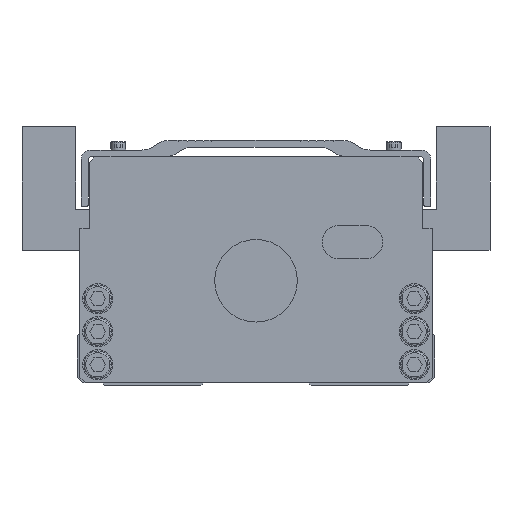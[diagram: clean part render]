
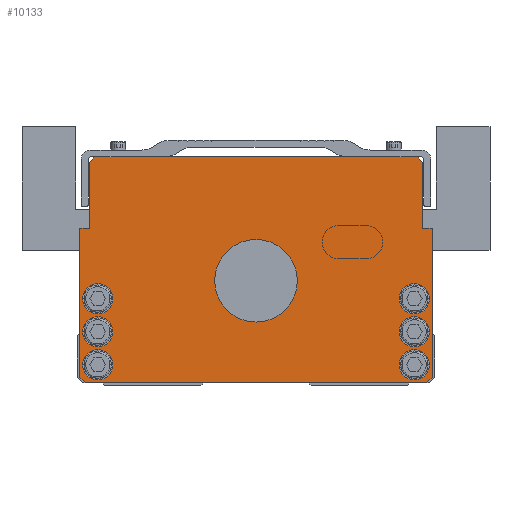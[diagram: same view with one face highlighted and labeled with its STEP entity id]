
A CAD part, front view. The second image highlights one B-rep face of the part: STEP entity #10133.
In plain terms, the highlighted planar face has unit normal (0, -1, 0).
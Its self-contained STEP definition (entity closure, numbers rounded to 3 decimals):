
#5259=EDGE_CURVE('',#12173,#10813,#15723,.T.);
#5481=VERTEX_POINT('',#15964);
#5549=EDGE_CURVE('',#8443,#14865,#16038,.T.);
#5889=VERTEX_POINT('',#16409);
#6263=VERTEX_POINT('',#16823);
#6489=VERTEX_POINT('',#17093);
#6657=EDGE_CURVE('',#8229,#10017,#17278,.T.);
#6677=EDGE_CURVE('',#13355,#5481,#17299,.T.);
#6883=EDGE_CURVE('',#10053,#5889,#17548,.T.);
#7391=EDGE_CURVE('',#6489,#14871,#18119,.T.);
#7433=EDGE_CURVE('',#11475,#14427,#18176,.T.);
#7439=EDGE_CURVE('',#8073,#6263,#18183,.T.);
#7613=EDGE_CURVE('',#11939,#6489,#18372,.T.);
#7625=VERTEX_POINT('',#18385);
#7747=EDGE_CURVE('',#6263,#13355,#18521,.T.);
#8073=VERTEX_POINT('',#18880);
#8229=VERTEX_POINT('',#19056);
#8443=VERTEX_POINT('',#19296);
#8649=VERTEX_POINT('',#19521);
#9033=EDGE_CURVE('',#14947,#14033,#19946,.T.);
#9247=EDGE_CURVE('',#14871,#8649,#20195,.T.);
#9421=EDGE_CURVE('',#13819,#15195,#20386,.T.);
#10017=VERTEX_POINT('',#21050);
#10043=VERTEX_POINT('',#21076);
#10053=VERTEX_POINT('',#21086);
#10133=ADVANCED_FACE('',(#21174,#21175,#21176,#21177,#21178,#21179,#21180,#21181),#21182,.T.);
#10267=VERTEX_POINT('',#21335);
#10647=EDGE_CURVE('',#8649,#8443,#21757,.T.);
#10813=VERTEX_POINT('',#21943);
#11127=EDGE_CURVE('',#11205,#10267,#22297,.T.);
#11205=VERTEX_POINT('',#22383);
#11475=VERTEX_POINT('',#22681);
#11599=EDGE_CURVE('',#5889,#13019,#22822,.T.);
#11939=VERTEX_POINT('',#23201);
#12003=EDGE_CURVE('',#10017,#8229,#23270,.T.);
#12173=VERTEX_POINT('',#23456);
#12183=EDGE_CURVE('',#5481,#7625,#23467,.T.);
#12435=EDGE_CURVE('',#7625,#10053,#23749,.T.);
#12667=EDGE_CURVE('',#14865,#8073,#24008,.T.);
#12941=EDGE_CURVE('',#13019,#11939,#24306,.T.);
#13019=VERTEX_POINT('',#24393);
#13113=EDGE_CURVE('',#14033,#14947,#24496,.T.);
#13355=VERTEX_POINT('',#24764);
#13599=EDGE_CURVE('',#14427,#11475,#25031,.T.);
#13819=VERTEX_POINT('',#25273);
#13933=EDGE_CURVE('',#14271,#10043,#25408,.T.);
#14033=VERTEX_POINT('',#25513);
#14271=VERTEX_POINT('',#25779);
#14427=VERTEX_POINT('',#25957);
#14489=EDGE_CURVE('',#10043,#14271,#26023,.T.);
#14803=EDGE_CURVE('',#10813,#12173,#26368,.T.);
#14849=EDGE_CURVE('',#10267,#11205,#26419,.T.);
#14865=VERTEX_POINT('',#26440);
#14871=VERTEX_POINT('',#26447);
#14947=VERTEX_POINT('',#26535);
#15149=EDGE_CURVE('',#15195,#13819,#26755,.T.);
#15195=VERTEX_POINT('',#26805);
#15723=CIRCLE('',#27371,15.0);
#15964=CARTESIAN_POINT('',(64.0,0.0,57.0));
#16038=LINE('',#27819,#27820);
#16409=CARTESIAN_POINT('',(-62.0,0.0,1.0));
#16823=CARTESIAN_POINT('',(60.5,0.0,81.0));
#17093=CARTESIAN_POINT('',(-60.5,0.0,57.0));
#17278=CIRCLE('',#29499,5.5);
#17299=LINE('',#29526,#29527);
#17548=LINE('',#29851,#29852);
#18119=LINE('',#30638,#30639);
#18176=CIRCLE('',#30708,5.5);
#18183=LINE('',#30716,#30717);
#18372=LINE('',#30980,#30981);
#18385=CARTESIAN_POINT('',(64.0,0.0,3.0));
#18521=LINE('',#31229,#31230);
#18880=CARTESIAN_POINT('',(58.5,0.0,83.0));
#19056=CARTESIAN_POINT('',(-63.0,0.0,7.5));
#19296=CARTESIAN_POINT('',(-33.25,0.0,83.0));
#19521=CARTESIAN_POINT('',(-58.5,0.0,83.0));
#19946=CIRCLE('',#33174,5.5);
#20195=LINE('',#33553,#33554);
#20386=CIRCLE('',#33809,5.5);
#21050=CARTESIAN_POINT('',(-52.0,0.0,7.5));
#21076=CARTESIAN_POINT('',(52.0,0.0,7.5));
#21086=CARTESIAN_POINT('',(62.0,0.0,1.0));
#21174=FACE_BOUND('',#34883,.T.);
#21175=FACE_BOUND('',#34884,.T.);
#21176=FACE_BOUND('',#34885,.T.);
#21177=FACE_BOUND('',#34886,.T.);
#21178=FACE_BOUND('',#34887,.T.);
#21179=FACE_BOUND('',#34888,.T.);
#21180=FACE_BOUND('',#34889,.T.);
#21181=FACE_OUTER_BOUND('',#34890,.T.);
#21182=PLANE('',#34891);
#21335=CARTESIAN_POINT('',(52.0,0.0,31.5));
#21757=LINE('',#35679,#35680);
#21943=CARTESIAN_POINT('',(15.0,0.0,38.0));
#22297=CIRCLE('',#36406,5.5);
#22383=CARTESIAN_POINT('',(63.0,0.0,31.5));
#22681=CARTESIAN_POINT('',(63.0,0.0,19.5));
#22822=LINE('',#37116,#37117);
#23201=CARTESIAN_POINT('',(-64.0,0.0,57.0));
#23270=CIRCLE('',#37736,5.5);
#23456=CARTESIAN_POINT('',(-15.0,0.0,38.0));
#23467=LINE('',#38012,#38013);
#23749=LINE('',#38419,#38420);
#24008=LINE('',#38765,#38766);
#24306=LINE('',#39162,#39163);
#24393=CARTESIAN_POINT('',(-64.0,0.0,3.0));
#24496=CIRCLE('',#39428,5.5);
#24764=CARTESIAN_POINT('',(60.5,0.0,57.0));
#25031=CIRCLE('',#40138,5.5);
#25273=CARTESIAN_POINT('',(-52.0,0.0,19.5));
#25408=CIRCLE('',#40641,5.5);
#25513=CARTESIAN_POINT('',(-52.0,0.0,31.5));
#25779=CARTESIAN_POINT('',(63.0,0.0,7.5));
#25957=CARTESIAN_POINT('',(52.0,0.0,19.5));
#26023=CIRCLE('',#41494,5.5);
#26368=CIRCLE('',#41960,15.0);
#26419=CIRCLE('',#42033,5.5);
#26440=CARTESIAN_POINT('',(33.25,0.0,83.0));
#26447=CARTESIAN_POINT('',(-60.5,0.0,81.0));
#26535=CARTESIAN_POINT('',(-63.0,0.0,31.5));
#26755=CIRCLE('',#42486,5.5);
#26805=CARTESIAN_POINT('',(-63.0,0.0,19.5));
#27371=AXIS2_PLACEMENT_3D('',#43320,#43321,#43322);
#27819=CARTESIAN_POINT('',(58.5,0.0,83.0));
#27820=VECTOR('',#43652,1.0);
#29499=AXIS2_PLACEMENT_3D('',#45095,#45096,#45097);
#29526=CARTESIAN_POINT('',(64.0,0.0,57.0));
#29527=VECTOR('',#45116,1.0);
#29851=CARTESIAN_POINT('',(-62.0,0.0,1.0));
#29852=VECTOR('',#45456,1.0);
#30638=CARTESIAN_POINT('',(-60.5,0.0,81.0));
#30639=VECTOR('',#46142,1.0);
#30708=AXIS2_PLACEMENT_3D('',#46256,#46257,#46258);
#30716=CARTESIAN_POINT('',(60.5,0.0,81.0));
#30717=VECTOR('',#46266,1.);
#30980=CARTESIAN_POINT('',(-60.5,0.0,57.0));
#30981=VECTOR('',#46461,1.0);
#31229=CARTESIAN_POINT('',(60.5,0.0,57.0));
#31230=VECTOR('',#46619,1.0);
#33174=AXIS2_PLACEMENT_3D('',#48347,#48348,#48349);
#33553=CARTESIAN_POINT('',(-58.5,0.0,83.0));
#33554=VECTOR('',#48681,1.);
#33809=AXIS2_PLACEMENT_3D('',#48870,#48871,#48872);
#34883=EDGE_LOOP('',(#49730,#49731));
#34884=EDGE_LOOP('',(#49732,#49733));
#34885=EDGE_LOOP('',(#49734,#49735));
#34886=EDGE_LOOP('',(#49736,#49737));
#34887=EDGE_LOOP('',(#49738,#49739));
#34888=EDGE_LOOP('',(#49740,#49741));
#34889=EDGE_LOOP('',(#49742,#49743));
#34890=EDGE_LOOP('',(#49744,#49745,#49746,#49747,#49748,#49749,#49750,#49751,#49752,#49753,#49754,#49755,#49756,#49757));
#34891=AXIS2_PLACEMENT_3D('',#49758,#49759,#49760);
#35679=CARTESIAN_POINT('',(58.5,0.0,83.0));
#35680=VECTOR('',#50370,1.0);
#36406=AXIS2_PLACEMENT_3D('',#51063,#51064,#51065);
#37116=CARTESIAN_POINT('',(-64.0,0.0,3.0));
#37117=VECTOR('',#51652,1.);
#37736=AXIS2_PLACEMENT_3D('',#52173,#52174,#52175);
#38012=CARTESIAN_POINT('',(64.0,0.0,3.0));
#38013=VECTOR('',#52394,1.0);
#38419=CARTESIAN_POINT('',(62.0,0.0,1.0));
#38420=VECTOR('',#52778,1.);
#38765=CARTESIAN_POINT('',(58.5,0.0,83.0));
#38766=VECTOR('',#53058,1.0);
#39162=CARTESIAN_POINT('',(-64.0,0.0,57.0));
#39163=VECTOR('',#53349,1.0);
#39428=AXIS2_PLACEMENT_3D('',#53574,#53575,#53576);
#40138=AXIS2_PLACEMENT_3D('',#54125,#54126,#54127);
#40641=AXIS2_PLACEMENT_3D('',#54572,#54573,#54574);
#41494=AXIS2_PLACEMENT_3D('',#55266,#55267,#55268);
#41960=AXIS2_PLACEMENT_3D('',#55651,#55652,#55653);
#42033=AXIS2_PLACEMENT_3D('',#55706,#55707,#55708);
#42486=AXIS2_PLACEMENT_3D('',#56174,#56175,#56176);
#43320=CARTESIAN_POINT('',(0.0,0.0,38.0));
#43321=DIRECTION('',(-0.0,1.0,0.0));
#43322=DIRECTION('',(1.0,0.0,0.0));
#43652=DIRECTION('',(1.0,0.0,0.0));
#45095=CARTESIAN_POINT('',(-57.5,0.0,7.5));
#45096=DIRECTION('',(-0.0,1.0,0.0));
#45097=DIRECTION('',(1.0,0.0,0.0));
#45116=DIRECTION('',(1.0,0.0,0.0));
#45456=DIRECTION('',(-1.0,0.0,-0.0));
#46142=DIRECTION('',(0.0,0.0,1.0));
#46256=CARTESIAN_POINT('',(57.5,0.0,19.5));
#46257=DIRECTION('',(-0.0,1.0,0.0));
#46258=DIRECTION('',(1.0,0.0,0.0));
#46266=DIRECTION('',(0.707,0.0,-0.707));
#46461=DIRECTION('',(1.0,0.0,0.0));
#46619=DIRECTION('',(-0.0,0.0,-1.0));
#48347=CARTESIAN_POINT('',(-57.5,0.0,31.5));
#48348=DIRECTION('',(-0.0,1.0,0.0));
#48349=DIRECTION('',(1.0,0.0,0.0));
#48681=DIRECTION('',(0.707,0.0,0.707));
#48870=CARTESIAN_POINT('',(-57.5,0.0,19.5));
#48871=DIRECTION('',(-0.0,1.0,0.0));
#48872=DIRECTION('',(1.0,0.0,0.0));
#49730=ORIENTED_EDGE('',*,*,#14803,.T.);
#49731=ORIENTED_EDGE('',*,*,#5259,.T.);
#49732=ORIENTED_EDGE('',*,*,#11127,.T.);
#49733=ORIENTED_EDGE('',*,*,#14849,.T.);
#49734=ORIENTED_EDGE('',*,*,#7433,.T.);
#49735=ORIENTED_EDGE('',*,*,#13599,.T.);
#49736=ORIENTED_EDGE('',*,*,#13933,.T.);
#49737=ORIENTED_EDGE('',*,*,#14489,.T.);
#49738=ORIENTED_EDGE('',*,*,#13113,.T.);
#49739=ORIENTED_EDGE('',*,*,#9033,.T.);
#49740=ORIENTED_EDGE('',*,*,#9421,.T.);
#49741=ORIENTED_EDGE('',*,*,#15149,.T.);
#49742=ORIENTED_EDGE('',*,*,#12003,.T.);
#49743=ORIENTED_EDGE('',*,*,#6657,.T.);
#49744=ORIENTED_EDGE('',*,*,#11599,.F.);
#49745=ORIENTED_EDGE('',*,*,#6883,.F.);
#49746=ORIENTED_EDGE('',*,*,#12435,.F.);
#49747=ORIENTED_EDGE('',*,*,#12183,.F.);
#49748=ORIENTED_EDGE('',*,*,#6677,.F.);
#49749=ORIENTED_EDGE('',*,*,#7747,.F.);
#49750=ORIENTED_EDGE('',*,*,#7439,.F.);
#49751=ORIENTED_EDGE('',*,*,#12667,.F.);
#49752=ORIENTED_EDGE('',*,*,#5549,.F.);
#49753=ORIENTED_EDGE('',*,*,#10647,.F.);
#49754=ORIENTED_EDGE('',*,*,#9247,.F.);
#49755=ORIENTED_EDGE('',*,*,#7391,.F.);
#49756=ORIENTED_EDGE('',*,*,#7613,.F.);
#49757=ORIENTED_EDGE('',*,*,#12941,.F.);
#49758=CARTESIAN_POINT('',(0.,0.0,41.562));
#49759=DIRECTION('',(0.0,-1.0,0.0));
#49760=DIRECTION('',(1.0,0.0,0.0));
#50370=DIRECTION('',(1.0,0.0,0.0));
#51063=CARTESIAN_POINT('',(57.5,0.0,31.5));
#51064=DIRECTION('',(-0.0,1.0,0.0));
#51065=DIRECTION('',(1.0,0.0,0.0));
#51652=DIRECTION('',(-0.707,0.0,0.707));
#52173=CARTESIAN_POINT('',(-57.5,0.0,7.5));
#52174=DIRECTION('',(-0.0,1.0,0.0));
#52175=DIRECTION('',(1.0,0.0,0.0));
#52394=DIRECTION('',(-0.0,0.0,-1.0));
#52778=DIRECTION('',(-0.707,0.0,-0.707));
#53058=DIRECTION('',(1.0,0.0,0.0));
#53349=DIRECTION('',(0.0,0.0,1.0));
#53574=CARTESIAN_POINT('',(-57.5,0.0,31.5));
#53575=DIRECTION('',(-0.0,1.0,0.0));
#53576=DIRECTION('',(1.0,0.0,0.0));
#54125=CARTESIAN_POINT('',(57.5,0.0,19.5));
#54126=DIRECTION('',(-0.0,1.0,0.0));
#54127=DIRECTION('',(1.0,0.0,0.0));
#54572=CARTESIAN_POINT('',(57.5,0.0,7.5));
#54573=DIRECTION('',(-0.0,1.0,0.0));
#54574=DIRECTION('',(1.0,0.0,0.0));
#55266=CARTESIAN_POINT('',(57.5,0.0,7.5));
#55267=DIRECTION('',(-0.0,1.0,0.0));
#55268=DIRECTION('',(1.0,0.0,0.0));
#55651=CARTESIAN_POINT('',(0.0,0.0,38.0));
#55652=DIRECTION('',(-0.0,1.0,0.0));
#55653=DIRECTION('',(1.0,0.0,0.0));
#55706=CARTESIAN_POINT('',(57.5,0.0,31.5));
#55707=DIRECTION('',(-0.0,1.0,0.0));
#55708=DIRECTION('',(1.0,0.0,0.0));
#56174=CARTESIAN_POINT('',(-57.5,0.0,19.5));
#56175=DIRECTION('',(-0.0,1.0,0.0));
#56176=DIRECTION('',(1.0,0.0,0.0));
